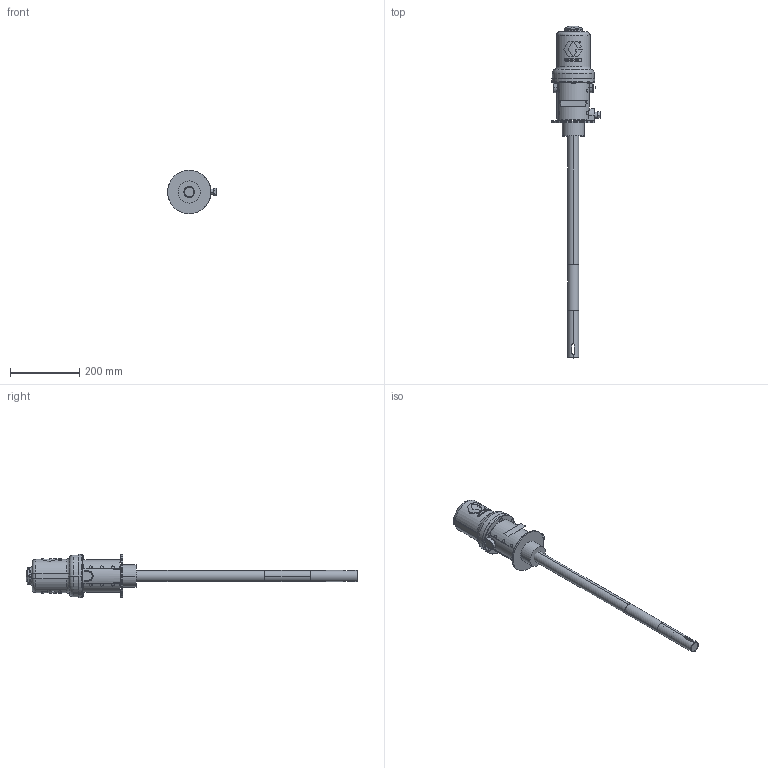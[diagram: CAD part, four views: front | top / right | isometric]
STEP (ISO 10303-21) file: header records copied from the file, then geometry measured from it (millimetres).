
FILE_DESCRIPTION((''),'2;1');
FILE_NAME('253361-EN-U_PRT','2024-02-21T09:42:43',('qtmwp1'),(''),'CREO PARAMETRIC BY PTC INC, 2021072','CREO PARAMETRIC BY PTC INC, 2021072','');
FILE_SCHEMA(('CONFIG_CONTROL_DESIGN'));
Length unit declared in the file: inch
Products named in the file (1): 253361-EN-U_PRT
Bounding box: 140.74 x 956.87 x 124.81 mm (x, y, z)
Surface area: 229361.8 mm2 (no closed solid volume)
Topology: 0 solids, 58 shells, 267 faces, 915 edges, 689 vertices
Faces by surface type: plane 117, cylinder 82, cone 47, torus 16, bspline 5
Entity records: 11593 total; most frequent: CARTESIAN_POINT 4359, DIRECTION 1421, ORIENTED_EDGE 1309, EDGE_CURVE 915, VERTEX_POINT 689, AXIS2_PLACEMENT_3D 578, B_SPLINE_CURVE_WITH_KNOTS 334, CIRCLE 316
